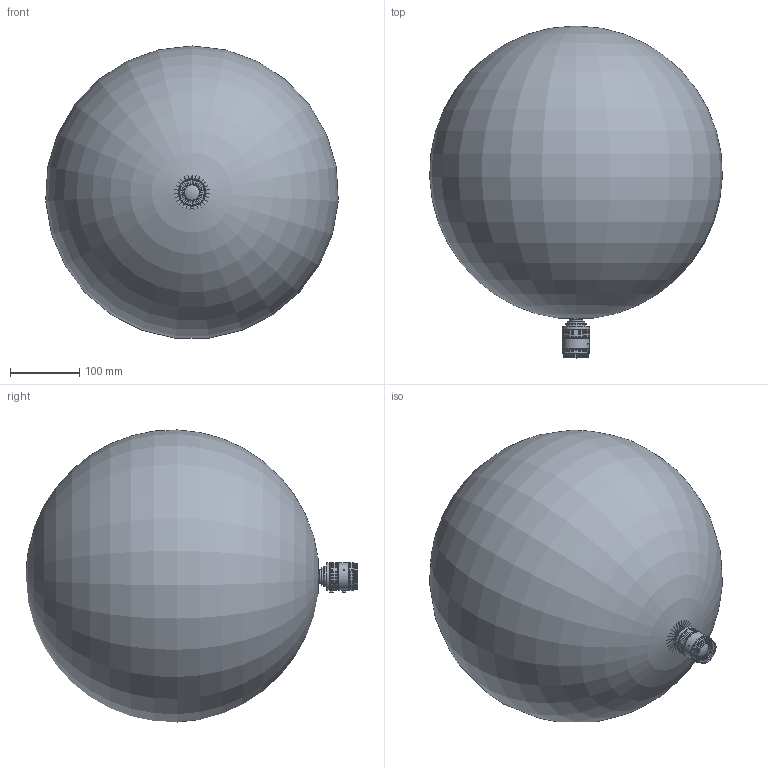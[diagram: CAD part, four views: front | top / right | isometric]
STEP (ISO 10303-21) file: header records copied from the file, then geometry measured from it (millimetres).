
FILE_DESCRIPTION(/* description */ ('Unknown'),/* implementation_level */ '2;1');
FILE_NAME(/* name */ 'V1624-MPZ_210401',/* time_stamp */ '2021-04-01T10:34:33+09:00',/* author */ ('Unknown'),/* organization */ ('Unknown'),/* preprocessor_version */ 'ST-DEVELOPER v16.7',/* originating_system */ 'DEX',/* authorisation */ $);
FILE_SCHEMA (('AP203_CONFIGURATION_CONTROLLED_3D_DESIGN_OF_MECHANICAL_PARTS_AND_ASSEMBLIES_MIM_LF { 1 0 10303 203 3 1 4 }','AP242_MANAGED_MODEL_BASED_3D_ENGINEERING_MIM_LF { 1 0 10303 442 1 1 4 }','AUTOMOTIVE_DESIGN {1 0 10303 214 3 1 1}'));
Length unit declared in the file: millimetre
Products named in the file (3): V1624-MPZ_210401; V1624-MPZ_Infinity; V1624-MPZ_Mechnical limit
Assembly tree (2 placements, depth 2):
  V1624-MPZ_210401
    V1624-MPZ_Infinity
    V1624-MPZ_Mechnical limit
Bounding box: 422.28 x 479.11 x 421.56 mm (x, y, z)
Volume: 79471246.1 mm3; surface area: 1147873.2 mm2
Topology: 2 solids, 10 shells, 830 faces, 2092 edges, 1350 vertices
Faces by surface type: cylinder 330, plane 268, cone 212, bspline 12, torus 6, sphere 2
Full cylindrical faces by diameter (mm): 1.5 x6, 1.567 x10, 1.7 x10, 1.8 x6, 2 x2, 2.5 x2, 2.8 x2, 3 x8, 3.4 x2, 4.999 x4, 16.5 x2, 21.7 x2, 21.887 x2, 24.4 x2, 25.4 x2, 35.8 x2, 37.6 x4, 38.2 x4, 39 x2, 39.2 x2
Entity records: 30587 total; most frequent: CARTESIAN_POINT 6299, ORIENTED_EDGE 3712, DIRECTION 3646, EDGE_CURVE 1856, AXIS2_PLACEMENT_3D 1429, VERTEX_POINT 1286, FACE_BOUND 1086, EDGE_LOOP 1084
